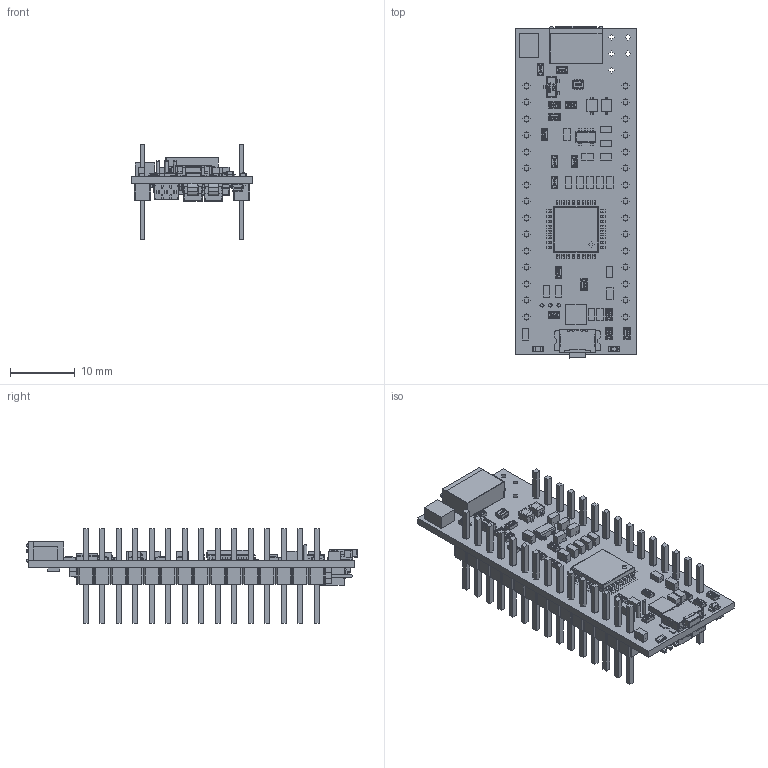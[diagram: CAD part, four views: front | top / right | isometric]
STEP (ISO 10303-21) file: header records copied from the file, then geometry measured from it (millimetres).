
FILE_DESCRIPTION(('Open CASCADE Model'),'2;1');
FILE_NAME('Open CASCADE Shape Model','2019-07-22T13:48:16',('Author'),( 'Open CASCADE'),'Open CASCADE STEP processor 6.8','Open CASCADE 6.8' ,'Unknown');
FILE_SCHEMA(('AUTOMOTIVE_DESIGN { 1 0 10303 214 1 1 1 1 }'));
Length unit declared in the file: millimetre
Products named in the file (185): PCB; Board; Open CASCADE STEP translator 6.8 1.1.1; R9; R0603; 6251536336; Extruded; B1; KSS221GLFS; 6250801056; 6250800816; C1; C0603; 6251163424; C2; 6250804416; C3; C4; C5; C0402; 6251162704; C6; C7; C9; C10; C11; C12; C13; C14; C15; C16; C17; C18; C19; C20; C21; C22; C23; C24; C25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
Assembly tree (470 placements, depth 5):
  PCB
    Board
      Open CASCADE STEP translator 6.8 1.1.1
    R9
      R0603
      6251536336
        Extruded
    B1
      KSS221GLFS
      6250801056
        Extruded
      6250800816
        Extruded
    C1
      C0603
      6251163424
        Extruded
    C2
      C0603
      6250804416
        Extruded
    C3
      C0603
      6250804416
        Extruded
    C4
      C0603
      6251163424
        Extruded
    C5
      C0402
      6251162704
        Extruded
    C6
      C0402
      6251162704
        Extruded
    C7
      C0603
      6251163424
        Extruded
    C9
      C0603
      6251163424
        Extruded
    C10
      C0603
      6251163424
        Extruded
    C11
      C0603
      6250804416
        Extruded
    C12
      C0603
      6250804416
        Extruded
    C13
      C0603
      6251163424
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Bounding box: 18.54 x 51.1 x 14.5 mm (x, y, z)
Topology: 435 solids, 460 shells, 11202 faces, 27359 edges, 16798 vertices
Faces by surface type: plane 5969, bspline 2624, cylinder 2545, sphere 40, revolution 16, torus 7, cone 1
Full cylindrical faces by diameter (mm): 0.2 x1, 0.508 x3, 0.7 x7, 0.8 x1, 0.875 x1, 0.9 x7, 1.1 x30
Entity records: 102560 total; most frequent: CARTESIAN_POINT 28729, ORIENTED_EDGE 13271, DIRECTION 12565, EDGE_CURVE 6669, LINE 4637, VECTOR 4637, VERTEX_POINT 4334, AXIS2_PLACEMENT_3D 3960
